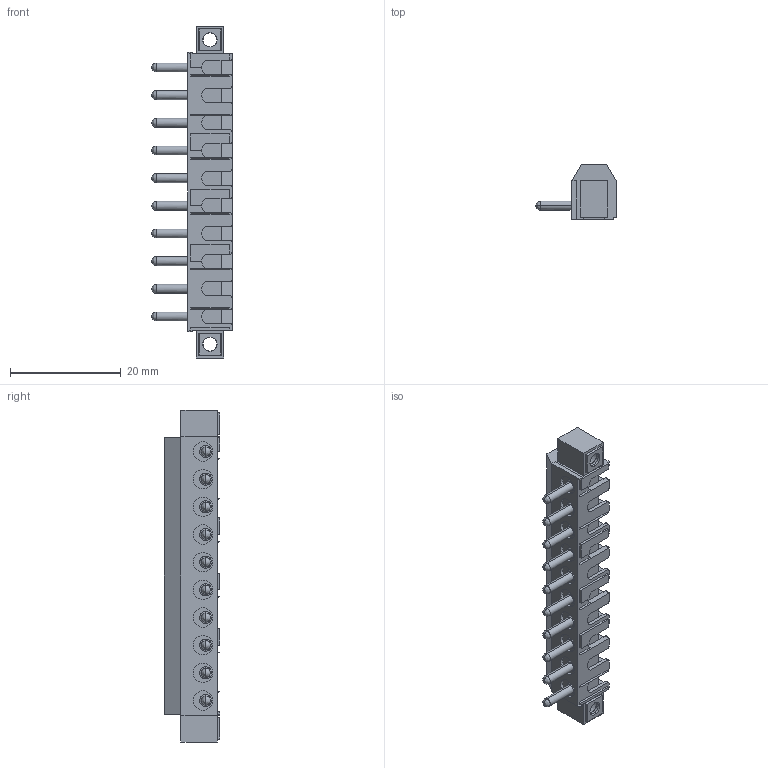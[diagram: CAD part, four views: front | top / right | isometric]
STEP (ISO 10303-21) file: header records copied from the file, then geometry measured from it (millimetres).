
FILE_DESCRIPTION (( 'STEP AP214' ), '1' );
FILE_NAME ('951-B-SV-10.STEP', '2008-04-17T03:55:35', ( ' ' ), ( '' ), 'SwSTEP 2.0', 'SolidWorks 2007', '' );
FILE_SCHEMA (( 'AUTOMOTIVE_DESIGN' ));
Length unit declared in the file: millimetre
Products named in the file (1): 951-B-SV-10
Bounding box: 14.5 x 10 x 60 mm (x, y, z)
Volume: 3279 mm3; surface area: 3419.3 mm2
Topology: 1 solids, 1 shells, 712 faces, 2098 edges, 1364 vertices
Faces by surface type: plane 462, cylinder 138, bspline 84, cone 28
Entity records: 27431 total; most frequent: CARTESIAN_POINT 9209, ORIENTED_EDGE 4156, DIRECTION 3390, EDGE_CURVE 2078, VERTEX_POINT 1364, VECTOR 1268, LINE 1268, AXIS2_PLACEMENT_3D 1061
